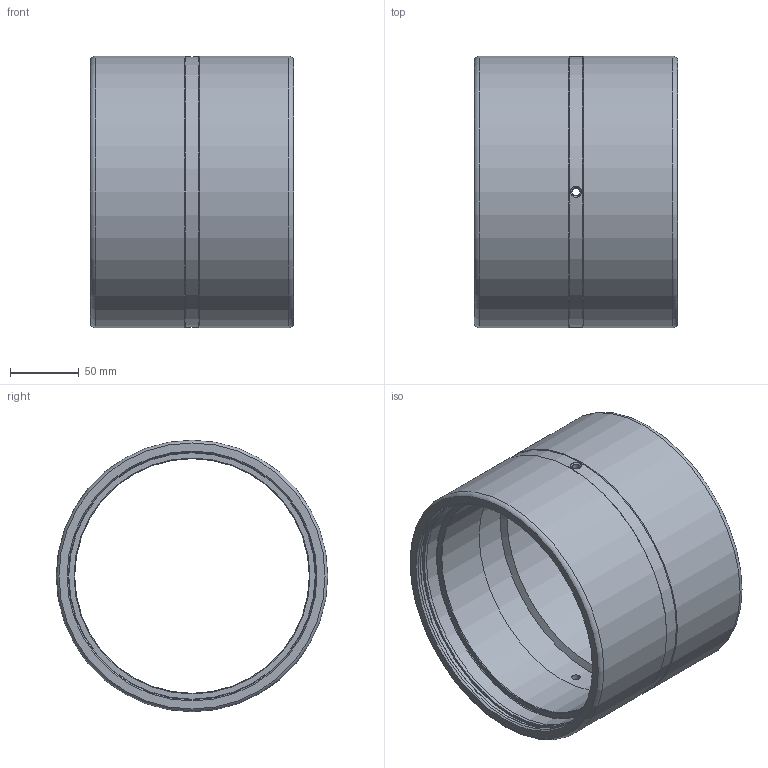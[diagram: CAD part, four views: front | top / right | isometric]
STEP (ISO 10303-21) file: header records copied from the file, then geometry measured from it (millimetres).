
FILE_DESCRIPTION(/* description */ (''),/* implementation_level */ '2;1');
FILE_NAME(/* name */ 'C:\Users\stagistacad\Desktop\00210010.stp',/* time_stamp */ '2018-06-15T16:11:44+02:00',/* author */ ('stagistacad'),/* organization */ (''),/* preprocessor_version */ 'ST-DEVELOPER v15.6',/* originating_system */ 'Autodesk Inventor 2015',/* authorisation */ '');
FILE_SCHEMA (('AUTOMOTIVE_DESIGN { 1 0 10303 214 3 1 1 }'));
Length unit declared in the file: millimetre
Products named in the file (1): 00210010
Bounding box: 148 x 198 x 198 mm (x, y, z)
Volume: 958887.7 mm3; surface area: 195186.8 mm2
Topology: 1 solids, 1 shells, 40 faces, 75 edges, 43 vertices
Faces by surface type: cylinder 13, cone 11, plane 8, torus 6, bspline 2
Full cylindrical faces by diameter (mm): 6 x2, 171 x2, 180.45 x3, 181 x1, 185 x2, 197 x1, 198 x2
Entity records: 1254 total; most frequent: CARTESIAN_POINT 535, DIRECTION 152, ORIENTED_EDGE 88, EDGE_LOOP 82, AXIS2_PLACEMENT_3D 75, EDGE_CURVE 44, FACE_BOUND 42, VERTEX_POINT 42
